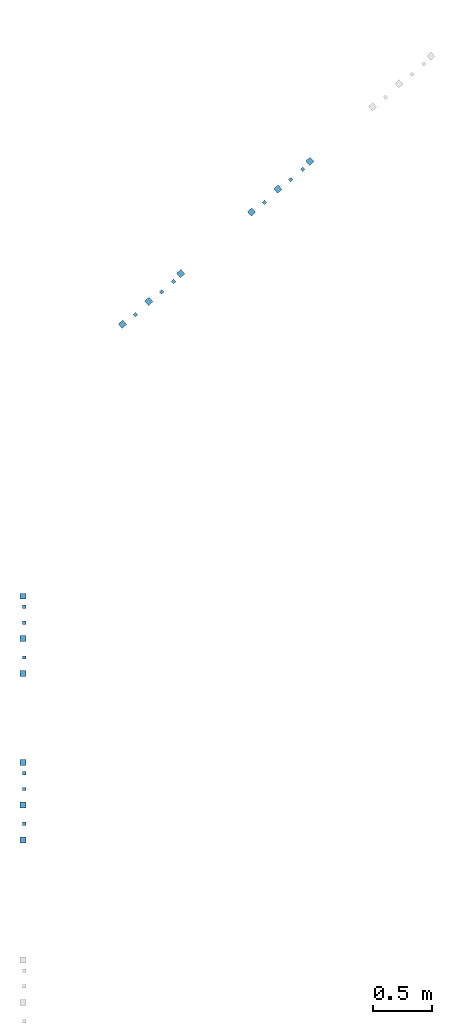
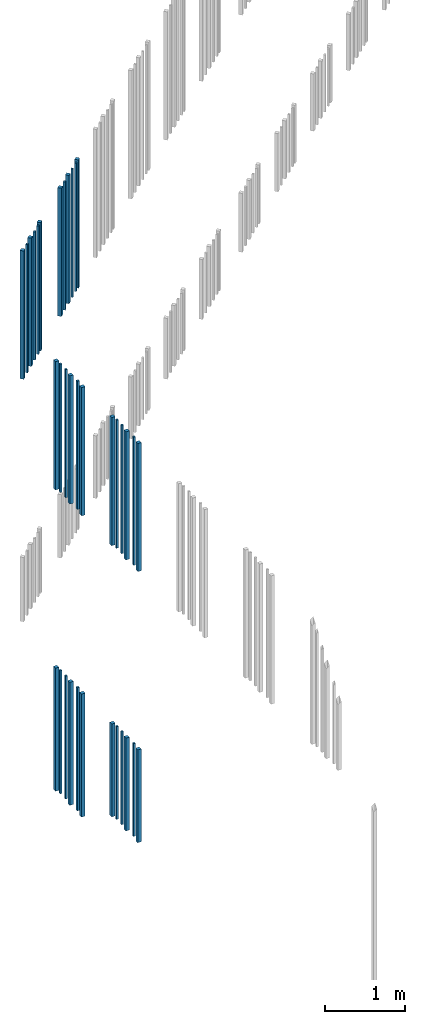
# One storey, part 26 of 124: 36 walls.
"""IFC2X3 building model written with IfcOpenShell, lengths in millimetres."""

from ifc_helpers import new_model, entity, si_unit, converted_unit, derived_unit, money_unit, direction, frame, origin_with_axes, place, context, subcontext, project, spatial, faceted_brep, material, type_object, element, save


model = new_model("IFC2X3")

# Units and contexts
model_context = context("Model", 3, precision=1e-05, world=origin_with_axes(), true_north=direction((0.0, 1.0)))
body_context = subcontext(model_context, "Body", "Model", "MODEL_VIEW")
ifc_project = project(units=[si_unit("LENGTHUNIT", "METRE", prefix="MILLI"), si_unit("AREAUNIT", "SQUARE_METRE"), si_unit("VOLUMEUNIT", "CUBIC_METRE"), converted_unit("PLANEANGLEUNIT", "DEGREE", entity("IfcPlaneAngleMeasure", 0.0174532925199), si_unit("PLANEANGLEUNIT", "RADIAN"), dimensions=[0, 0, 0, 0, 0, 0, 0]), si_unit("SOLIDANGLEUNIT", "STERADIAN"), money_unit("EUR"), converted_unit("TIMEUNIT", "Year", entity("IfcTimeMeasure", 31556926.0), si_unit("TIMEUNIT", "SECOND"), dimensions=[0, 0, 1, 0, 0, 0, 0]), si_unit("MASSUNIT", "GRAM", prefix="KILO"), si_unit("THERMODYNAMICTEMPERATUREUNIT", "DEGREE_CELSIUS"), si_unit("LUMINOUSINTENSITYUNIT", "LUMEN"), si_unit("ENERGYUNIT", "JOULE", prefix="MEGA"), derived_unit("THERMALCONDUCTANCEUNIT", [(si_unit("POWERUNIT", "WATT"), 1), (si_unit("LENGTHUNIT", "METRE"), -1), (si_unit("THERMODYNAMICTEMPERATUREUNIT", "KELVIN"), -1)]), derived_unit("SPECIFICHEATCAPACITYUNIT", [(si_unit("ENERGYUNIT", "JOULE"), 1), (si_unit("MASSUNIT", "GRAM", prefix="KILO"), -1), (si_unit("THERMODYNAMICTEMPERATUREUNIT", "KELVIN"), -1)]), derived_unit("MASSDENSITYUNIT", [(si_unit("MASSUNIT", "GRAM", prefix="KILO"), 1), (si_unit("VOLUMEUNIT", "CUBIC_METRE"), -1)])], contexts=[model_context])

# Site, building, storey
site_placement = place(None, origin_with_axes())
site = spatial("IfcSite", under=ifc_project, at=site_placement, Name="Site", CompositionType="ELEMENT")
building_placement = place(site_placement, origin_with_axes())
building = spatial("IfcBuilding", under=site, at=building_placement, Name="Building", CompositionType="ELEMENT")
storey_placement = place(building_placement, frame((0.0, 0.0, -1615.0), z_axis=(0.0, 0.0, 1.0), x_axis=(1.0, 0.0, 0.0)))
storey = spatial("IfcBuildingStorey", under=building, at=storey_placement, Name="0  korrus", CompositionType="ELEMENT", Elevation=-1615.0)

# Walls
ifc_material = material(Name="Site specified")
wall_type = type_object("IfcWallType", Name="Puitfassaadi ribistik", PredefinedType="NOTDEFINED")
wall_1_placement = place(storey_placement, frame((122398.99999, 72950.0207059, 5410.0), z_axis=(0.0, 0.0, 1.0), x_axis=(-5.16795809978e-08, 1.0, 0.0)))
element("IfcWall", 1, at=wall_1_placement, inside=storey, type_object=wall_type, material=ifc_material, Name="Site specified", context=body_context, shape_type="Brep", body=[
    faceted_brep([(14.0, 14.0, 1411.0), (14.0, 14.0, 0.0), (-14.0, 14.0, 0.0), (-14.0, 14.0, 1411.0), (14.0, -14.0, 1411.0), (14.0, -14.0, 0.0), (-14.0, -14.0, 0.0), (-14.0, -14.0, 1411.0)], [[[0, 1, 2, 3]], [[4, 5, 1, 0]], [[2, 1, 5, 6]], [[3, 2, 6, 7]], [[4, 0, 3, 7]], [[7, 6, 5, 4]]]),
])
for number, where, z_axis, x_axis, name in (
    (2, (122398.99999, 74350.0207059, 9530.0), (0.0, 0.0, 1.0), (-5.16795809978e-08, 1.0, 0.0), "Site specified"),
    (3, (122398.999968, 74776.0206761, 9530.0), (0.0, 0.0, 1.0), (-5.16795809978e-08, 1.0, 0.0), "Site specified"),
):
    element("IfcWall", number, at=place(storey_placement, frame(where, z_axis=z_axis, x_axis=x_axis)), inside=storey, type_object=wall_type, material=ifc_material, Name=name, context=body_context, shape_type="Brep", body=[
        faceted_brep([(14.0, 14.0, 1950.0), (14.0, 14.0, 0.0), (-14.0, 14.0, 0.0), (-14.0, 14.0, 1950.0), (14.0, -14.0, 1950.0), (14.0, -14.0, 0.0), (-14.0, -14.0, 0.0), (-14.0, -14.0, 1950.0)], [[[0, 1, 2, 3]], [[4, 5, 1, 0]], [[2, 1, 5, 6]], [[3, 2, 6, 7]], [[4, 0, 3, 7]], [[7, 6, 5, 4]]]),
    ])
for number, where, z_axis, x_axis, name in (
    (4, (122387.999964, 74865.023846, 9530.0), (0.0, 0.0, 1.0), (-5.16795809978e-08, 1.0, 0.0), "Site specified"),
    (5, (122387.999982, 74509.0182127, 9530.0), (0.0, 0.0, 1.0), (-5.16795809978e-08, 1.0, 0.0), "Site specified"),
    (6, (122387.999997, 74215.0182148, 9530.0), (0.0, 0.0, 1.0), (-5.16795809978e-08, 1.0, 0.0), "Site specified"),
):
    element("IfcWall", number, at=place(storey_placement, frame(where, z_axis=z_axis, x_axis=x_axis)), inside=storey, type_object=wall_type, material=ifc_material, Name=name, context=body_context, shape_type="Brep", body=[
        faceted_brep([(25.0, 25.0, 1950.0), (25.0, 25.0, 0.0), (-25.0, 25.0, 0.0), (-25.0, 25.0, 1950.0), (25.0, -25.0, 1950.0), (25.0, -25.0, 0.0), (-25.0, -25.0, 0.0), (-25.0, -25.0, 1950.0)], [[[0, 1, 2, 3]], [[4, 5, 1, 0]], [[2, 1, 5, 6]], [[3, 2, 6, 7]], [[4, 0, 3, 7]], [[7, 6, 5, 4]]]),
    ])
wall_2_placement = place(storey_placement, frame((122398.999975, 74643.020677, 9530.0), z_axis=(0.0, 0.0, 1.0), x_axis=(-5.16795809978e-08, 1.0, 0.0)))
element("IfcWall", 7, at=wall_2_placement, inside=storey, type_object=wall_type, material=ifc_material, Name="Site specified", context=body_context, shape_type="Brep", body=[
    faceted_brep([(14.0, 14.0, 1950.0), (14.0, 14.0, 0.0), (-14.0, 14.0, 0.0), (-14.0, 14.0, 1950.0), (14.0, -14.0, 1950.0), (14.0, -14.0, 0.0), (-14.0, -14.0, 0.0), (-14.0, -14.0, 1950.0)], [[[0, 1, 2, 3]], [[4, 5, 1, 0]], [[2, 1, 5, 6]], [[3, 2, 6, 7]], [[4, 0, 3, 7]], [[7, 6, 5, 4]]]),
])
for number, where, z_axis, x_axis, name in (
    (8, (123715.119942, 77580.3288192, 9530.0), (0.0, 0.0, 1.0), (0.754709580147, 0.656059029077, 0.0), "Site specified"),
    (9, (123446.43908, 77346.7681091, 9530.0), (0.0, 0.0, 1.0), (0.754709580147, 0.656059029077, 0.0), "Site specified"),
):
    element("IfcWall", number, at=place(storey_placement, frame(where, z_axis=z_axis, x_axis=x_axis)), inside=storey, type_object=wall_type, material=ifc_material, Name=name, context=body_context, shape_type="Brep", body=[
        faceted_brep([(25.0, 25.0, 1950.0), (25.0, 25.0, 0.0), (-25.0, 25.0, 0.0), (-25.0, 25.0, 1950.0), (25.0, -25.0, 1950.0), (25.0, -25.0, 0.0), (-25.0, -25.0, 0.0), (-25.0, -25.0, 1950.0)], [[[0, 1, 2, 3]], [[4, 5, 1, 0]], [[2, 1, 5, 6]], [[3, 2, 6, 7]], [[4, 0, 3, 7]], [[7, 6, 5, 4]]]),
    ])
wall_3_placement = place(storey_placement, frame((122387.999964, 73465.023846, 5410.0), z_axis=(0.0, 0.0, 1.0), x_axis=(-5.16795809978e-08, 1.0, 0.0)))
element("IfcWall", 10, at=wall_3_placement, inside=storey, type_object=wall_type, material=ifc_material, Name="Site specified", context=body_context, shape_type="Brep", body=[
    faceted_brep([(25.0, 25.0, 1411.0), (25.0, 25.0, 0.0), (-25.0, 25.0, 0.0), (-25.0, 25.0, 1411.0), (25.0, -25.0, 1411.0), (25.0, -25.0, 0.0), (-25.0, -25.0, 0.0), (-25.0, -25.0, 1411.0)], [[[0, 1, 2, 3]], [[4, 5, 1, 0]], [[2, 1, 5, 6]], [[3, 2, 6, 7]], [[4, 0, 3, 7]], [[7, 6, 5, 4]]]),
])
wall_4_placement = place(storey_placement, frame((122387.999997, 72815.0182148, 9530.0), z_axis=(0.0, 0.0, 1.0), x_axis=(-5.16795809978e-08, 1.0, 0.0)))
element("IfcWall", 11, at=wall_4_placement, inside=storey, type_object=wall_type, material=ifc_material, Name="Site specified", context=body_context, shape_type="Brep", body=[
    faceted_brep([(25.0, 25.0, 1950.0), (25.0, 25.0, 0.0), (-25.0, 25.0, 0.0), (-25.0, 25.0, 1950.0), (25.0, -25.0, 1950.0), (25.0, -25.0, 0.0), (-25.0, -25.0, 0.0), (-25.0, -25.0, 1950.0)], [[[0, 1, 2, 3]], [[4, 5, 1, 0]], [[2, 1, 5, 6]], [[3, 2, 6, 7]], [[4, 0, 3, 7]], [[7, 6, 5, 4]]]),
])
for number, where, z_axis, x_axis, name in (
    (12, (122398.999975, 73243.020677, 5410.0), (0.0, 0.0, 1.0), (-5.16795809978e-08, 1.0, 0.0), "Site specified"),
    (13, (122398.999968, 73376.0206761, 5410.0), (0.0, 0.0, 1.0), (-5.16795809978e-08, 1.0, 0.0), "Site specified"),
):
    element("IfcWall", number, at=place(storey_placement, frame(where, z_axis=z_axis, x_axis=x_axis)), inside=storey, type_object=wall_type, material=ifc_material, Name=name, context=body_context, shape_type="Brep", body=[
        faceted_brep([(14.0, 14.0, 1411.0), (14.0, 14.0, 0.0), (-14.0, 14.0, 0.0), (-14.0, 14.0, 1411.0), (14.0, -14.0, 1411.0), (14.0, -14.0, 0.0), (-14.0, -14.0, 0.0), (-14.0, -14.0, 1411.0)], [[[0, 1, 2, 3]], [[4, 5, 1, 0]], [[2, 1, 5, 6]], [[3, 2, 6, 7]], [[4, 0, 3, 7]], [[7, 6, 5, 4]]]),
    ])
wall_5_placement = place(storey_placement, frame((122387.999982, 73109.0182127, 5410.0), z_axis=(0.0, 0.0, 1.0), x_axis=(-5.16795809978e-08, 1.0, 0.0)))
element("IfcWall", 14, at=wall_5_placement, inside=storey, type_object=wall_type, material=ifc_material, Name="Site specified", context=body_context, shape_type="Brep", body=[
    faceted_brep([(25.0, 25.0, 1411.0), (25.0, 25.0, 0.0), (-25.0, 25.0, 0.0), (-25.0, 25.0, 1411.0), (25.0, -25.0, 1411.0), (25.0, -25.0, 0.0), (-25.0, -25.0, 0.0), (-25.0, -25.0, 1411.0)], [[[0, 1, 2, 3]], [[4, 5, 1, 0]], [[2, 1, 5, 6]], [[3, 2, 6, 7]], [[4, 0, 3, 7]], [[7, 6, 5, 4]]]),
])
for number, where, z_axis, x_axis, name in (
    (15, (122387.999964, 74865.023846, 4950.0), (0.0, 0.0, 1.0), (-5.16795809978e-08, 1.0, 0.0), "Site specified"),
    (16, (122387.999997, 74215.0182148, 4950.0), (0.0, 0.0, 1.0), (-5.16795809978e-08, 1.0, 0.0), "Site specified"),
):
    element("IfcWall", number, at=place(storey_placement, frame(where, z_axis=z_axis, x_axis=x_axis)), inside=storey, type_object=wall_type, material=ifc_material, Name=name, context=body_context, shape_type="Brep", body=[
        faceted_brep([(25.0, 25.0, 1871.0), (25.0, 25.0, 0.0), (-25.0, 25.0, 0.0), (-25.0, 25.0, 1871.0), (25.0, -25.0, 1871.0), (25.0, -25.0, 0.0), (-25.0, -25.0, 0.0), (-25.0, -25.0, 1871.0)], [[[0, 1, 2, 3]], [[4, 5, 1, 0]], [[2, 1, 5, 6]], [[3, 2, 6, 7]], [[4, 0, 3, 7]], [[7, 6, 5, 4]]]),
    ])
for number, where, z_axis, x_axis, name in (
    (17, (122398.99999, 74350.0207059, 4950.0), (0.0, 0.0, 1.0), (-5.16795809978e-08, 1.0, 0.0), "Site specified"),
    (18, (122398.999968, 74776.0206761, 4950.0), (0.0, 0.0, 1.0), (-5.16795809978e-08, 1.0, 0.0), "Site specified"),
    (19, (122398.999975, 74643.020677, 4950.0), (0.0, 0.0, 1.0), (-5.16795809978e-08, 1.0, 0.0), "Site specified"),
):
    element("IfcWall", number, at=place(storey_placement, frame(where, z_axis=z_axis, x_axis=x_axis)), inside=storey, type_object=wall_type, material=ifc_material, Name=name, context=body_context, shape_type="Brep", body=[
        faceted_brep([(14.0, 14.0, 1871.0), (14.0, 14.0, 0.0), (-14.0, 14.0, 0.0), (-14.0, 14.0, 1871.0), (14.0, -14.0, 1871.0), (14.0, -14.0, 0.0), (-14.0, -14.0, 0.0), (-14.0, -14.0, 1871.0)], [[[0, 1, 2, 3]], [[4, 5, 1, 0]], [[2, 1, 5, 6]], [[3, 2, 6, 7]], [[4, 0, 3, 7]], [[7, 6, 5, 4]]]),
    ])
wall_6_placement = place(storey_placement, frame((122387.999982, 74509.0182127, 4950.0), z_axis=(0.0, 0.0, 1.0), x_axis=(-5.16795809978e-08, 1.0, 0.0)))
element("IfcWall", 20, at=wall_6_placement, inside=storey, type_object=wall_type, material=ifc_material, Name="Site specified", context=body_context, shape_type="Brep", body=[
    faceted_brep([(25.0, 25.0, 1871.0), (25.0, 25.0, 0.0), (-25.0, 25.0, 0.0), (-25.0, 25.0, 1871.0), (25.0, -25.0, 1871.0), (25.0, -25.0, 0.0), (-25.0, -25.0, 0.0), (-25.0, -25.0, 1871.0)], [[[0, 1, 2, 3]], [[4, 5, 1, 0]], [[2, 1, 5, 6]], [[3, 2, 6, 7]], [[4, 0, 3, 7]], [[7, 6, 5, 4]]]),
])
for number, where, z_axis, x_axis, name in (
    (21, (122398.99999, 72950.0207059, 9530.0), (0.0, 0.0, 1.0), (-5.16795809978e-08, 1.0, 0.0), "Site specified"),
    (22, (122398.999968, 73376.0206761, 9530.0), (0.0, 0.0, 1.0), (-5.16795809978e-08, 1.0, 0.0), "Site specified"),
    (23, (122398.999975, 73243.020677, 9530.0), (0.0, 0.0, 1.0), (-5.16795809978e-08, 1.0, 0.0), "Site specified"),
):
    element("IfcWall", number, at=place(storey_placement, frame(where, z_axis=z_axis, x_axis=x_axis)), inside=storey, type_object=wall_type, material=ifc_material, Name=name, context=body_context, shape_type="Brep", body=[
        faceted_brep([(14.0, 14.0, 1950.0), (14.0, 14.0, 0.0), (-14.0, 14.0, 0.0), (-14.0, 14.0, 1950.0), (14.0, -14.0, 1950.0), (14.0, -14.0, 0.0), (-14.0, -14.0, 0.0), (-14.0, -14.0, 1950.0)], [[[0, 1, 2, 3]], [[4, 5, 1, 0]], [[2, 1, 5, 6]], [[3, 2, 6, 7]], [[4, 0, 3, 7]], [[7, 6, 5, 4]]]),
    ])
for number, where, z_axis, x_axis, name in (
    (24, (122387.999964, 73465.023846, 9530.0), (0.0, 0.0, 1.0), (-5.16795809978e-08, 1.0, 0.0), "Site specified"),
    (25, (122387.999982, 73109.0182127, 9530.0), (0.0, 0.0, 1.0), (-5.16795809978e-08, 1.0, 0.0), "Site specified"),
):
    element("IfcWall", number, at=place(storey_placement, frame(where, z_axis=z_axis, x_axis=x_axis)), inside=storey, type_object=wall_type, material=ifc_material, Name=name, context=body_context, shape_type="Brep", body=[
        faceted_brep([(25.0, 25.0, 1950.0), (25.0, 25.0, 0.0), (-25.0, 25.0, 0.0), (-25.0, 25.0, 1950.0), (25.0, -25.0, 1950.0), (25.0, -25.0, 0.0), (-25.0, -25.0, 0.0), (-25.0, -25.0, 1950.0)], [[[0, 1, 2, 3]], [[4, 5, 1, 0]], [[2, 1, 5, 6]], [[3, 2, 6, 7]], [[4, 0, 3, 7]], [[7, 6, 5, 4]]]),
    ])
wall_7_placement = place(storey_placement, frame((123554.788672, 77426.3798299, 9530.0), z_axis=(0.0, 0.0, 1.0), x_axis=(0.754709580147, 0.656059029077, 0.0)))
element("IfcWall", 26, at=wall_7_placement, inside=storey, type_object=wall_type, material=ifc_material, Name="Site specified", context=body_context, shape_type="Brep", body=[
    faceted_brep([(14.0, 14.0, 1950.0), (14.0, 14.0, 0.0), (-14.0, 14.0, 0.0), (-14.0, 14.0, 1950.0), (14.0, -14.0, 1950.0), (14.0, -14.0, 0.0), (-14.0, -14.0, 0.0), (-14.0, -14.0, 1950.0)], [[[0, 1, 2, 3]], [[4, 5, 1, 0]], [[2, 1, 5, 6]], [[3, 2, 6, 7]], [[4, 0, 3, 7]], [[7, 6, 5, 4]]]),
])
wall_8_placement = place(storey_placement, frame((123224.554465, 77153.886756, 9530.0), z_axis=(0.0, 0.0, 1.0), x_axis=(0.754709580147, 0.656059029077, 0.0)))
element("IfcWall", 27, at=wall_8_placement, inside=storey, type_object=wall_type, material=ifc_material, Name="Site specified", context=body_context, shape_type="Brep", body=[
    faceted_brep([(25.0, 25.0, 1950.0), (25.0, 25.0, 0.0), (-25.0, 25.0, 0.0), (-25.0, 25.0, 1950.0), (25.0, -25.0, 1950.0), (25.0, -25.0, 0.0), (-25.0, -25.0, 0.0), (-25.0, -25.0, 1950.0)], [[[0, 1, 2, 3]], [[4, 5, 1, 0]], [[2, 1, 5, 6]], [[3, 2, 6, 7]], [[4, 0, 3, 7]], [[7, 6, 5, 4]]]),
])
for number, where, z_axis, x_axis, name in (
    (28, (123333.658787, 77234.1545534, 9530.0), (0.0, 0.0, 1.0), (0.754709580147, 0.656059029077, 0.0), "Site specified"),
    (29, (123655.165046, 77513.6356803, 9530.0), (0.0, 0.0, 1.0), (0.754709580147, 0.656059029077, 0.0), "Site specified"),
    (30, (124741.947091, 78458.3608966, 9530.0), (0.0, 0.0, 1.0), (0.754709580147, 0.656059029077, 0.0), "Site specified"),
    (31, (124641.570717, 78371.1050463, 9530.0), (0.0, 0.0, 1.0), (0.754709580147, 0.656059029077, 0.0), "Site specified"),
):
    element("IfcWall", number, at=place(storey_placement, frame(where, z_axis=z_axis, x_axis=x_axis)), inside=storey, type_object=wall_type, material=ifc_material, Name=name, context=body_context, shape_type="Brep", body=[
        faceted_brep([(14.0, 14.0, 1950.0), (14.0, 14.0, 0.0), (-14.0, 14.0, 0.0), (-14.0, 14.0, 1950.0), (14.0, -14.0, 1950.0), (14.0, -14.0, 0.0), (-14.0, -14.0, 0.0), (-14.0, -14.0, 1950.0)], [[[0, 1, 2, 3]], [[4, 5, 1, 0]], [[2, 1, 5, 6]], [[3, 2, 6, 7]], [[4, 0, 3, 7]], [[7, 6, 5, 4]]]),
    ])
for number, where, z_axis, x_axis, name in (
    (32, (124801.901987, 78525.0540356, 9530.0), (0.0, 0.0, 1.0), (0.754709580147, 0.656059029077, 0.0), "Site specified"),
    (33, (124533.221125, 78291.4933254, 9530.0), (0.0, 0.0, 1.0), (0.754709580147, 0.656059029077, 0.0), "Site specified"),
    (34, (124311.33651, 78098.6119723, 9530.0), (0.0, 0.0, 1.0), (0.754709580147, 0.656059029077, 0.0), "Site specified"),
):
    element("IfcWall", number, at=place(storey_placement, frame(where, z_axis=z_axis, x_axis=x_axis)), inside=storey, type_object=wall_type, material=ifc_material, Name=name, context=body_context, shape_type="Brep", body=[
        faceted_brep([(25.0, 25.0, 1950.0), (25.0, 25.0, 0.0), (-25.0, 25.0, 0.0), (-25.0, 25.0, 1950.0), (25.0, -25.0, 1950.0), (25.0, -25.0, 0.0), (-25.0, -25.0, 0.0), (-25.0, -25.0, 1950.0)], [[[0, 1, 2, 3]], [[4, 5, 1, 0]], [[2, 1, 5, 6]], [[3, 2, 6, 7]], [[4, 0, 3, 7]], [[7, 6, 5, 4]]]),
    ])
wall_9_placement = place(storey_placement, frame((124420.440832, 78178.8797698, 9530.0), z_axis=(0.0, 0.0, 1.0), x_axis=(0.754709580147, 0.656059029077, 0.0)))
element("IfcWall", 35, at=wall_9_placement, inside=storey, type_object=wall_type, material=ifc_material, Name="Site specified", context=body_context, shape_type="Brep", body=[
    faceted_brep([(14.0, 14.0, 1950.0), (14.0, 14.0, 0.0), (-14.0, 14.0, 0.0), (-14.0, 14.0, 1950.0), (14.0, -14.0, 1950.0), (14.0, -14.0, 0.0), (-14.0, -14.0, 0.0), (-14.0, -14.0, 1950.0)], [[[0, 1, 2, 3]], [[4, 5, 1, 0]], [[2, 1, 5, 6]], [[3, 2, 6, 7]], [[4, 0, 3, 7]], [[7, 6, 5, 4]]]),
])
wall_10_placement = place(storey_placement, frame((122387.999997, 72815.0182148, 5410.0), z_axis=(0.0, 0.0, 1.0), x_axis=(-5.16795809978e-08, 1.0, 0.0)))
element("IfcWall", 36, at=wall_10_placement, inside=storey, type_object=wall_type, material=ifc_material, Name="Site specified", context=body_context, shape_type="Brep", body=[
    faceted_brep([(25.0, 25.0, 1411.0), (25.0, 25.0, 0.0), (-25.0, 25.0, 0.0), (-25.0, 25.0, 1411.0), (25.0, -25.0, 1411.0), (25.0, -25.0, 0.0), (-25.0, -25.0, 0.0), (-25.0, -25.0, 1411.0)], [[[0, 1, 2, 3]], [[4, 5, 1, 0]], [[2, 1, 5, 6]], [[3, 2, 6, 7]], [[4, 0, 3, 7]], [[7, 6, 5, 4]]]),
])

save(model, "model.ifc")
